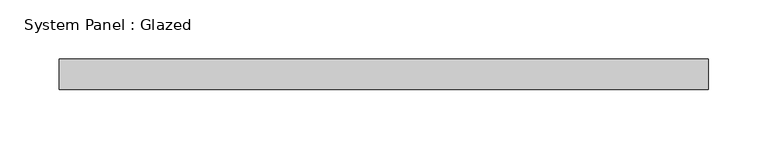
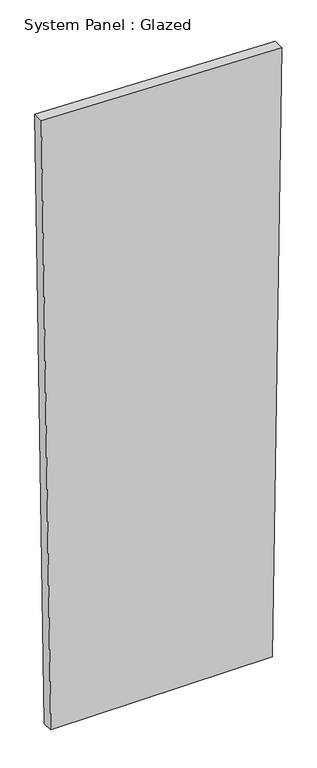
"""IFC4 building model written with IfcOpenShell, lengths in millimetres: plate geometry, System Panel : Glazed."""

from ifc_helpers import new_model, si_unit, frame, origin, place, context, project, spatial, polyline, outline, extrude, source, transform, mapped, element, save


def system_panel_glazed_6a02450f(model_context):
    return source(origin(), model_context, "Body", "SweptSolid", [
        extrude(outline(polyline([(0.0, -252.1437927), (0.0, 252.1152337), (1457.7618312, 273.4226507), (1473.195645, -273.4226507), (0.0, -252.1437927)])), frame((0.0, -44.45, 0.0), z_axis=(0.0, 1.0, 0.0), x_axis=(0.0, 0.0, 1.0)), (0.0, 0.0, 1.0), 25.4),
    ])


if __name__ == "__main__":
    model = new_model("IFC4")
    model_context = context("Model", 3, world=origin())
    ifc_project = project(units=[si_unit("LENGTHUNIT", "METRE", prefix="MILLI")], contexts=[model_context])
    site = spatial("IfcSite", under=ifc_project)
    building = spatial("IfcBuilding", under=site)
    placement = place(None, origin())
    system_panel_glazed_shape = system_panel_glazed_6a02450f(model_context)
    element("IfcPlate", 1, ObjectType="System Panel : Glazed", at=placement, inside=building, context=model_context, shape_type="MappedRepresentation", body=[
        mapped(system_panel_glazed_shape, transform((0.0, 0.0, 0.0), x_axis=(1.0, 0.0, 0.0), y_axis=(0.0, 1.0, 0.0), z_axis=(0.0, 0.0, 1.0))),
    ])
    save(model, "model.ifc")
